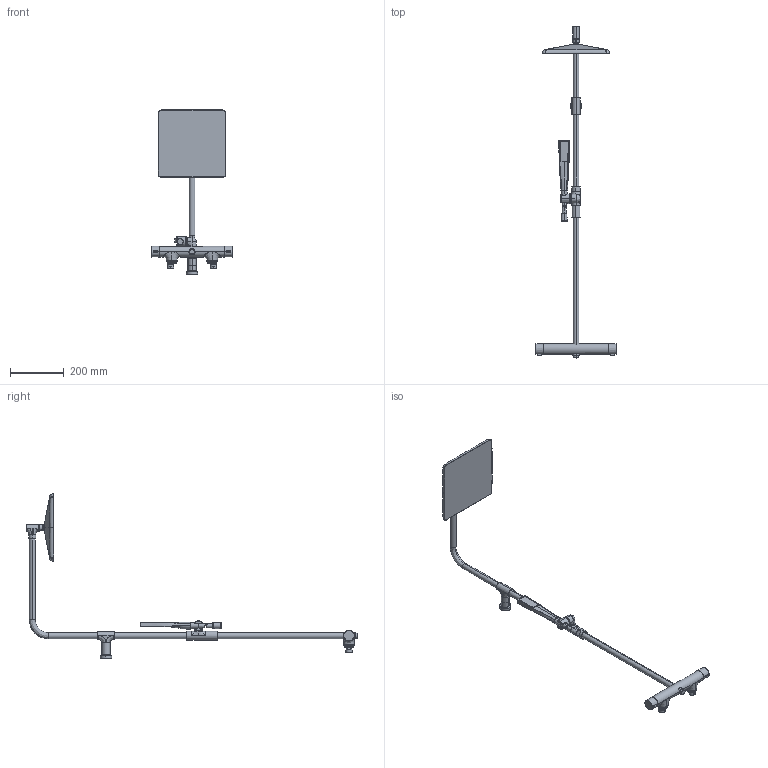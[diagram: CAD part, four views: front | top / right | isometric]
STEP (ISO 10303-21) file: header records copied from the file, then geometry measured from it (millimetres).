
FILE_DESCRIPTION (( 'STEP AP203' ), '1' );
FILE_NAME ('4757(2024).STEP', '2024-04-23T06:50:42', ( '' ), ( '' ), 'SwSTEP 2.0', 'SolidWorks 2016', '' );
FILE_SCHEMA (( 'CONFIG_CONTROL_DESIGN' ));
Length unit declared in the file: millimetre
Products named in the file (1): 4757(2024)
Bounding box: 299.88 x 1233.59 x 609.93 mm (x, y, z)
Volume: 2833263.4 mm3; surface area: 388283.8 mm2
Topology: 23 solids, 23 shells, 591 faces, 1426 edges, 886 vertices
Faces by surface type: bspline 297, cylinder 107, plane 100, cone 48, sphere 22, torus 17
Entity records: 44715 total; most frequent: CARTESIAN_POINT 32834, ORIENTED_EDGE 2824, DIRECTION 2009, EDGE_CURVE 1412, VERTEX_POINT 886, AXIS2_PLACEMENT_3D 879, EDGE_LOOP 610, ADVANCED_FACE 591
